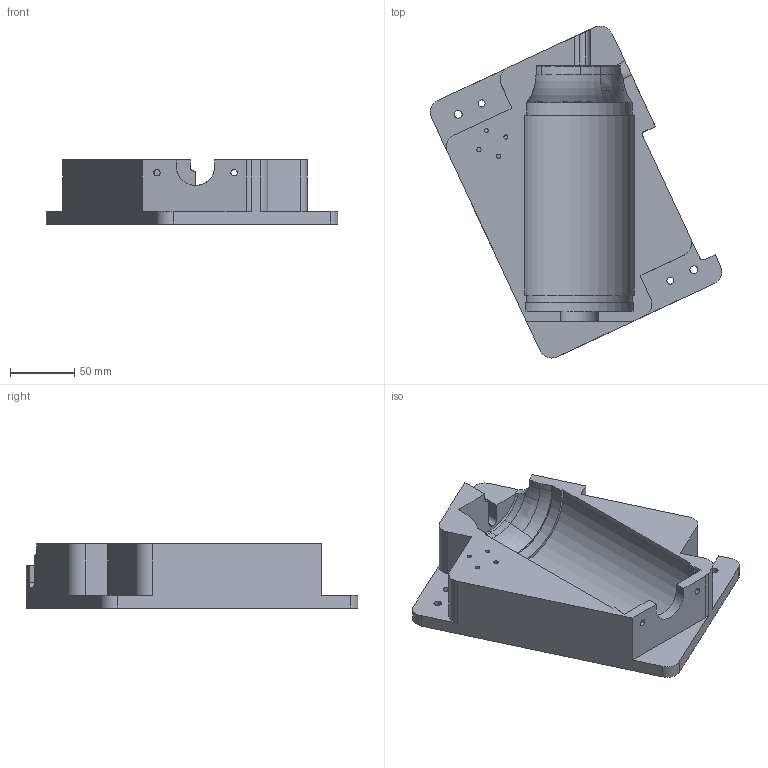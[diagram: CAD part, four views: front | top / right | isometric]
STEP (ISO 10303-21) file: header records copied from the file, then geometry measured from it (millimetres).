
FILE_DESCRIPTION(('CATIA V5 STEP Exchange'),'2;1');
FILE_NAME('D:\姚明阳\1、工装图纸\AGZ131\AGZ131.04_V1.stp','2025-02-06T06:34:52+00:00',('none'),('none'),'CATIA Version 5 Release 20 GA (IN-10)','CATIA V5 STEP AP203','none');
FILE_SCHEMA(('CONFIG_CONTROL_DESIGN'));
Length unit declared in the file: millimetre
Products named in the file (1): AGZ131.04_V1
Bounding box: 226.8 x 258.3 x 50 mm (x, y, z)
Volume: 795365.8 mm3; surface area: 118374.3 mm2
Topology: 1 solids, 1 shells, 116 faces, 339 edges, 229 vertices
Faces by surface type: cylinder 51, plane 46, extrusion 6, torus 6, revolution 5, cone 2
Entity records: 4245 total; most frequent: CARTESIAN_POINT 1251, ORIENTED_EDGE 678, DIRECTION 479, EDGE_CURVE 339, VERTEX_POINT 229, VECTOR 197, LINE 191, AXIS2_PLACEMENT_3D 185
